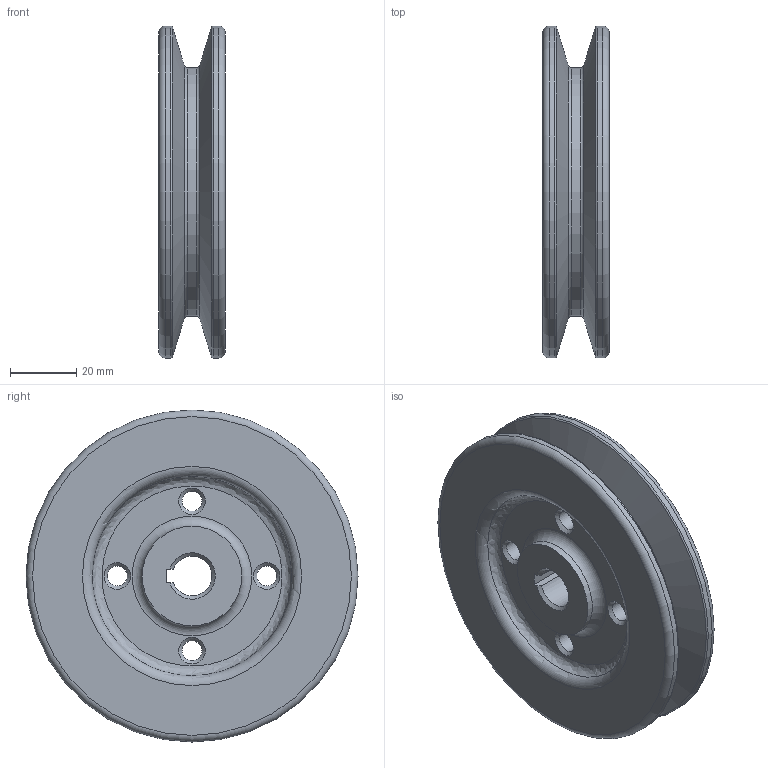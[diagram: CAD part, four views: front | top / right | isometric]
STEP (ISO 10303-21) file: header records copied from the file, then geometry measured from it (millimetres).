
FILE_DESCRIPTION(/* description */ (''),/* implementation_level */ '2;1');
FILE_NAME(/* name */ '',/* time_stamp */ '2024-07-17T10:28:32+09:00',/* author */ ('jhkim'),/* organization */ (''),/* preprocessor_version */ 'ST-DEVELOPER v20',/* originating_system */ 'Autodesk Inventor 2025',/* authorisation */ '');
FILE_SCHEMA (('AUTOMOTIVE_DESIGN { 1 0 10303 214 3 1 1 }'));
Length unit declared in the file: millimetre
Products named in the file (1): V-벨트풀리
Bounding box: 20 x 100 x 100 mm (x, y, z)
Volume: 103417.5 mm3; surface area: 28393.9 mm2
Topology: 1 solids, 1 shells, 43 faces, 103 edges, 66 vertices
Faces by surface type: cone 12, torus 10, cylinder 10, plane 9, bspline 2
Full cylindrical faces by diameter (mm): 6 x4, 30 x2, 75 x1, 100 x2
Entity records: 1857 total; most frequent: CARTESIAN_POINT 760, DIRECTION 241, ORIENTED_EDGE 206, AXIS2_PLACEMENT_3D 106, EDGE_CURVE 103, VERTEX_POINT 66, CIRCLE 64, EDGE_LOOP 57
